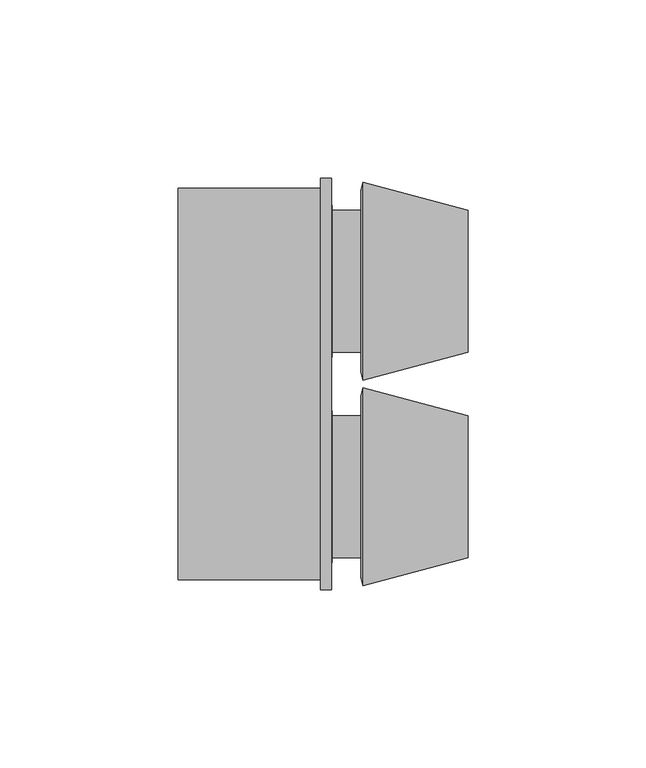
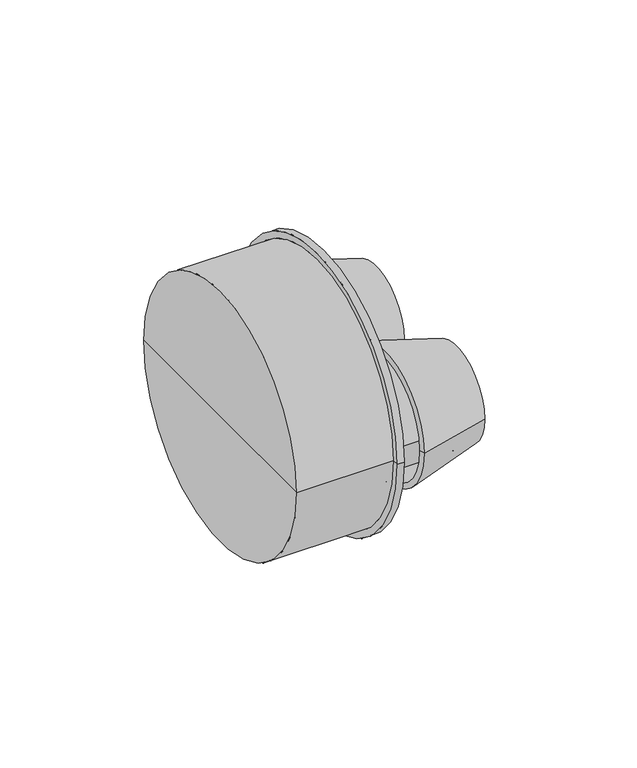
"""IFC4 building model written with IfcOpenShell, lengths in millimetres: pipe fitting geometry, NLRS_52_UN_PIF_PVC beluchter Spie_PipeLife : Grijs, var. DN/OD."""

from ifc_helpers import new_model, si_unit, frame, origin, place, context, project, spatial, polyline, circle_curve, source, transform, mapped, element, save
from ifc_brep_helpers import plane_surface, cylinder_surface, revolved_surface, advanced_brep


def pipe_fitting_c3f38ee5(model_context):
    return source(origin(), model_context, "Body", "AdvancedBrep", [
        advanced_brep(
        [(-39.9, -54.8, 0.0), (-39.9, 54.8, 0.0), (0.0, 54.8, 0.0), (0.0, -54.8, 0.0), (-39.9, 0.0, 0.0), (3.0, -57.6, 0.0), (3.0, 57.6, 0.0), (3.0, 0.0, 0.0), (0.0, -57.6, 0.0), (0.0, 57.6, 0.0)],
        [
            (0, 1, circle_curve(frame((-39.9, 0.0, 0.0), z_axis=(1.0, 0.0, 0.0), x_axis=(0.0, 1.0, 0.0)), 54.8)),
            (1, 2),
            (2, 3, circle_curve(frame((0.0, 0.0, 0.0), z_axis=(-1.0, 0.0, 0.0), x_axis=(0.0, 1.0, 0.0)), 54.8)),
            (3, 0),
            (1, 0, circle_curve(frame((-39.9, 0.0, 0.0), z_axis=(1.0, 0.0, 0.0), x_axis=(0.0, 1.0, 0.0)), 54.8)),
            (3, 2, circle_curve(frame((0.0, 0.0, 0.0), z_axis=(-1.0, 0.0, 0.0), x_axis=(0.0, 1.0, 0.0)), 54.8)),
            (4, 1),
            (0, 4),
            (5, 6, circle_curve(frame((3.0, 0.0, 0.0), z_axis=(1.0, 0.0, 0.0), x_axis=(0.0, 1.0, 0.0)), 57.6)),
            (6, 7),
            (7, 5),
            (6, 5, circle_curve(frame((3.0, 0.0, 0.0), z_axis=(1.0, 0.0, 0.0), x_axis=(0.0, 1.0, 0.0)), 57.6)),
            (8, 9, circle_curve(frame((0.0, 0.0, 0.0), z_axis=(1.0, 0.0, 0.0), x_axis=(0.0, 1.0, 0.0)), 57.6)),
            (9, 6),
            (5, 8),
            (9, 8, circle_curve(frame((0.0, 0.0, 0.0), z_axis=(1.0, 0.0, 0.0), x_axis=(0.0, 1.0, 0.0)), 57.6)),
            (2, 9),
            (8, 3),
        ],
        [
            cylinder_surface(frame((3.0, 0.0, 0.0), z_axis=(-1.0, 0.0, 0.0), x_axis=(0.0, 1.0, 0.0)), 54.8),
            plane_surface(frame((-39.9, 0.0, 0.0), z_axis=(-1.0, 0.0, 0.0), x_axis=(0.0, 1.0, 0.0))),
            plane_surface(frame((3.0, 0.0, 0.0), z_axis=(1.0, 0.0, 0.0), x_axis=(0.0, 1.0, 0.0))),
            cylinder_surface(frame((3.0, 0.0, 0.0), z_axis=(-1.0, 0.0, 0.0), x_axis=(0.0, 1.0, 0.0)), 57.6),
            plane_surface(frame((0.0, 0.0, 0.0), z_axis=(-1.0, 0.0, 0.0), x_axis=(0.0, 1.0, 0.0))),
        ],
        [
            (0, [[1, 2, 3, 4]]),
            (0, [[5, -4, 6, -2]]),
            (1, [[7, -1, 8]]),
            (1, [[-8, -5, -7]]),
            (2, [[9, 10, 11]]),
            (2, [[12, -11, -10]]),
            (3, [[13, 14, -9, 15]]),
            (3, [[16, -15, -12, -14]]),
            (4, [[-3, 17, -13, 18]]),
            (4, [[-6, -18, -16, -17]]),
        ],
    ),
        advanced_brep(
        [(41.2655909, 8.8982218, 0.0), (41.2655909, 48.7017782, 0.0), (41.2655909, 28.8, 0.0), (11.9617566, 1.0462831, 0.0), (11.9617566, 56.5537169, 0.0), (11.3405909, 3.3645051, 0.0), (11.3405909, 54.2354949, 0.0), (31.8127366, 8.85, 0.0), (31.8127366, 48.75, 0.0), (3.2656656, 8.85, 0.0), (3.2656656, 48.75, 0.0), (3.0, 5.8134284, 0.0), (3.0, 51.7865716, 0.0), (1.3655909, 5.8134284, 0.0), (1.3655909, 51.7865716, 0.0), (1.3655909, 28.8, 0.0)],
        [
            (0, 1, circle_curve(frame((41.2655909, 28.8, 0.0), z_axis=(1.0, 0.0, 0.0), x_axis=(0.0, 1.0, 0.0)), 19.9017782)),
            (1, 2),
            (2, 0),
            (1, 0, circle_curve(frame((41.2655909, 28.8, 0.0), z_axis=(1.0, 0.0, 0.0), x_axis=(0.0, 1.0, 0.0)), 19.9017782)),
            (3, 4, circle_curve(frame((11.9617566, 28.8, 0.0), z_axis=(1.0, 0.0, 0.0), x_axis=(0.0, 1.0, 0.0)), 27.7537169)),
            (4, 1),
            (0, 3),
            (4, 3, circle_curve(frame((11.9617566, 28.8, 0.0), z_axis=(1.0, 0.0, 0.0), x_axis=(0.0, 1.0, 0.0)), 27.7537169)),
            (5, 6, circle_curve(frame((11.3405909, 28.8, 0.0), z_axis=(1.0, 0.0, 0.0), x_axis=(0.0, 1.0, 0.0)), 25.4354949)),
            (6, 4),
            (3, 5),
            (6, 5, circle_curve(frame((11.3405909, 28.8, 0.0), z_axis=(1.0, 0.0, 0.0), x_axis=(0.0, 1.0, 0.0)), 25.4354949)),
            (7, 8, circle_curve(frame((31.8127366, 28.8, 0.0), z_axis=(1.0, 0.0, 0.0), x_axis=(0.0, 1.0, 0.0)), 19.95)),
            (8, 6),
            (5, 7),
            (8, 7, circle_curve(frame((31.8127366, 28.8, 0.0), z_axis=(1.0, 0.0, 0.0), x_axis=(0.0, 1.0, 0.0)), 19.95)),
            (9, 10, circle_curve(frame((3.2656656, 28.8, 0.0), z_axis=(1.0, 0.0, 0.0), x_axis=(0.0, 1.0, 0.0)), 19.95)),
            (10, 8),
            (7, 9),
            (10, 9, circle_curve(frame((3.2656656, 28.8, 0.0), z_axis=(1.0, 0.0, 0.0), x_axis=(0.0, 1.0, 0.0)), 19.95)),
            (11, 12, circle_curve(frame((3.0, 28.8, 0.0), z_axis=(1.0, 0.0, 0.0), x_axis=(0.0, 1.0, 0.0)), 22.9865716)),
            (12, 10),
            (9, 11),
            (12, 11, circle_curve(frame((3.0, 28.8, 0.0), z_axis=(1.0, 0.0, 0.0), x_axis=(0.0, 1.0, 0.0)), 22.9865716)),
            (13, 14, circle_curve(frame((1.3655909, 28.8, 0.0), z_axis=(1.0, 0.0, 0.0), x_axis=(0.0, 1.0, 0.0)), 22.9865716)),
            (14, 12),
            (11, 13),
            (14, 13, circle_curve(frame((1.3655909, 28.8, 0.0), z_axis=(1.0, 0.0, 0.0), x_axis=(0.0, 1.0, 0.0)), 22.9865716)),
            (15, 14),
            (13, 15),
        ],
        [
            plane_surface(frame((41.2655909, 28.8, 0.0), z_axis=(1.0, 0.0, 0.0), x_axis=(0.0, 1.0, 0.0))),
            revolved_surface(polyline([(41.2655909, 48.7017782, 0.0), (11.9617566, 56.5537169, 0.0)]), (41.2655909, 28.8, 0.0), (-1.0, 0.0, 0.0)),
            revolved_surface(polyline([(11.9617566, 56.5537169, 0.0), (11.3405909, 54.2354949, 0.0)]), (41.2655909, 28.8, 0.0), (-1.0, 0.0, 0.0)),
            revolved_surface(polyline([(11.3405909, 54.2354949, 0.0), (31.8127366, 48.75, 0.0)]), (41.2655909, 28.8, 0.0), (-1.0, 0.0, 0.0)),
            cylinder_surface(frame((41.2655909, 28.8, 0.0), z_axis=(-1.0, 0.0, 0.0), x_axis=(0.0, 1.0, 0.0)), 19.95),
            revolved_surface(polyline([(3.2656656, 48.75, 0.0), (3.0, 51.7865716, 0.0)]), (41.2655909, 28.8, 0.0), (-1.0, 0.0, 0.0)),
            cylinder_surface(frame((41.2655909, 28.8, 0.0), z_axis=(-1.0, 0.0, 0.0), x_axis=(0.0, 1.0, 0.0)), 22.9865716),
            plane_surface(frame((1.3655909, 28.8, 0.0), z_axis=(-1.0, 0.0, 0.0), x_axis=(0.0, 1.0, 0.0))),
        ],
        [
            (0, [[1, 2, 3]]),
            (0, [[4, -3, -2]]),
            (1, [[5, 6, -1, 7]]),
            (1, [[8, -7, -4, -6]]),
            (2, [[9, 10, -5, 11]]),
            (2, [[12, -11, -8, -10]]),
            (3, [[13, 14, -9, 15]]),
            (3, [[16, -15, -12, -14]]),
            (4, [[17, 18, -13, 19]]),
            (4, [[20, -19, -16, -18]]),
            (5, [[21, 22, -17, 23]]),
            (5, [[24, -23, -20, -22]]),
            (6, [[25, 26, -21, 27]]),
            (6, [[28, -27, -24, -26]]),
            (7, [[29, -25, 30]]),
            (7, [[-30, -28, -29]]),
        ],
    ),
        advanced_brep(
        [(41.2655909, -48.7017782, 0.0), (41.2655909, -8.8982218, 0.0), (41.2655909, -28.8, 0.0), (11.9617566, -56.5537169, 0.0), (11.9617566, -1.0462831, 0.0), (11.3405909, -54.2354949, 0.0), (11.3405909, -3.3645051, 0.0), (31.8127366, -48.75, 0.0), (31.8127366, -8.85, 0.0), (3.2656656, -48.75, 0.0), (3.2656656, -8.85, 0.0), (3.0, -51.7865716, 0.0), (3.0, -5.8134284, 0.0), (1.3655909, -51.7865716, 0.0), (1.3655909, -5.8134284, 0.0), (1.3655909, -28.8, 0.0)],
        [
            (0, 1, circle_curve(frame((41.2655909, -28.8, 0.0), z_axis=(1.0, 0.0, 0.0), x_axis=(0.0, 1.0, 0.0)), 19.9017782)),
            (1, 2),
            (2, 0),
            (1, 0, circle_curve(frame((41.2655909, -28.8, 0.0), z_axis=(1.0, 0.0, 0.0), x_axis=(0.0, 1.0, 0.0)), 19.9017782)),
            (3, 4, circle_curve(frame((11.9617566, -28.8, 0.0), z_axis=(1.0, 0.0, 0.0), x_axis=(0.0, 1.0, 0.0)), 27.7537169)),
            (4, 1),
            (0, 3),
            (4, 3, circle_curve(frame((11.9617566, -28.8, 0.0), z_axis=(1.0, 0.0, 0.0), x_axis=(0.0, 1.0, 0.0)), 27.7537169)),
            (5, 6, circle_curve(frame((11.3405909, -28.8, 0.0), z_axis=(1.0, 0.0, 0.0), x_axis=(0.0, 1.0, 0.0)), 25.4354949)),
            (6, 4),
            (3, 5),
            (6, 5, circle_curve(frame((11.3405909, -28.8, 0.0), z_axis=(1.0, 0.0, 0.0), x_axis=(0.0, 1.0, 0.0)), 25.4354949)),
            (7, 8, circle_curve(frame((31.8127366, -28.8, 0.0), z_axis=(1.0, 0.0, 0.0), x_axis=(0.0, 1.0, 0.0)), 19.95)),
            (8, 6),
            (5, 7),
            (8, 7, circle_curve(frame((31.8127366, -28.8, 0.0), z_axis=(1.0, 0.0, 0.0), x_axis=(0.0, 1.0, 0.0)), 19.95)),
            (9, 10, circle_curve(frame((3.2656656, -28.8, 0.0), z_axis=(1.0, 0.0, 0.0), x_axis=(0.0, 1.0, 0.0)), 19.95)),
            (10, 8),
            (7, 9),
            (10, 9, circle_curve(frame((3.2656656, -28.8, 0.0), z_axis=(1.0, 0.0, 0.0), x_axis=(0.0, 1.0, 0.0)), 19.95)),
            (11, 12, circle_curve(frame((3.0, -28.8, 0.0), z_axis=(1.0, 0.0, 0.0), x_axis=(0.0, 1.0, 0.0)), 22.9865716)),
            (12, 10),
            (9, 11),
            (12, 11, circle_curve(frame((3.0, -28.8, 0.0), z_axis=(1.0, 0.0, 0.0), x_axis=(0.0, 1.0, 0.0)), 22.9865716)),
            (13, 14, circle_curve(frame((1.3655909, -28.8, 0.0), z_axis=(1.0, 0.0, 0.0), x_axis=(0.0, 1.0, 0.0)), 22.9865716)),
            (14, 12),
            (11, 13),
            (14, 13, circle_curve(frame((1.3655909, -28.8, 0.0), z_axis=(1.0, 0.0, 0.0), x_axis=(0.0, 1.0, 0.0)), 22.9865716)),
            (15, 14),
            (13, 15),
        ],
        [
            plane_surface(frame((41.2655909, -28.8, 0.0), z_axis=(1.0, 0.0, 0.0), x_axis=(0.0, 1.0, 0.0))),
            revolved_surface(polyline([(41.2655909, -8.8982218, 0.0), (11.9617566, -1.0462831, 0.0)]), (41.2655909, -28.8, 0.0), (-1.0, 0.0, 0.0)),
            revolved_surface(polyline([(11.9617566, -1.0462831, 0.0), (11.3405909, -3.3645051, 0.0)]), (41.2655909, -28.8, 0.0), (-1.0, 0.0, 0.0)),
            revolved_surface(polyline([(11.3405909, -3.3645051, 0.0), (31.8127366, -8.85, 0.0)]), (41.2655909, -28.8, 0.0), (-1.0, 0.0, 0.0)),
            cylinder_surface(frame((41.2655909, -28.8, 0.0), z_axis=(-1.0, 0.0, 0.0), x_axis=(0.0, 1.0, 0.0)), 19.95),
            revolved_surface(polyline([(3.2656656, -8.85, 0.0), (3.0, -5.8134284, 0.0)]), (41.2655909, -28.8, 0.0), (-1.0, 0.0, 0.0)),
            cylinder_surface(frame((41.2655909, -28.8, 0.0), z_axis=(-1.0, 0.0, 0.0), x_axis=(0.0, 1.0, 0.0)), 22.9865716),
            plane_surface(frame((1.3655909, -28.8, 0.0), z_axis=(-1.0, 0.0, 0.0), x_axis=(0.0, 1.0, 0.0))),
        ],
        [
            (0, [[1, 2, 3]]),
            (0, [[4, -3, -2]]),
            (1, [[5, 6, -1, 7]]),
            (1, [[8, -7, -4, -6]]),
            (2, [[9, 10, -5, 11]]),
            (2, [[12, -11, -8, -10]]),
            (3, [[13, 14, -9, 15]]),
            (3, [[16, -15, -12, -14]]),
            (4, [[17, 18, -13, 19]]),
            (4, [[20, -19, -16, -18]]),
            (5, [[21, 22, -17, 23]]),
            (5, [[24, -23, -20, -22]]),
            (6, [[25, 26, -21, 27]]),
            (6, [[28, -27, -24, -26]]),
            (7, [[29, -25, 30]]),
            (7, [[-30, -28, -29]]),
        ],
    ),
    ])


if __name__ == "__main__":
    model = new_model("IFC4")
    model_context = context("Model", 3, world=origin())
    ifc_project = project(units=[si_unit("LENGTHUNIT", "METRE", prefix="MILLI")], contexts=[model_context])
    site = spatial("IfcSite", under=ifc_project)
    building = spatial("IfcBuilding", under=site)
    placement = place(None, origin())
    pipe_fitting_shape = pipe_fitting_c3f38ee5(model_context)
    element("IfcPipeFitting", 1, ObjectType="NLRS_52_UN_PIF_PVC beluchter Spie_PipeLife : Grijs, var. DN/OD", at=placement, inside=building, context=model_context, shape_type="MappedRepresentation", body=[
        mapped(pipe_fitting_shape, transform((0.0, 0.0, 0.0), x_axis=(1.0, 0.0, 0.0), y_axis=(0.0, 1.0, 0.0), z_axis=(0.0, 0.0, 1.0))),
    ])
    save(model, "model.ifc")
